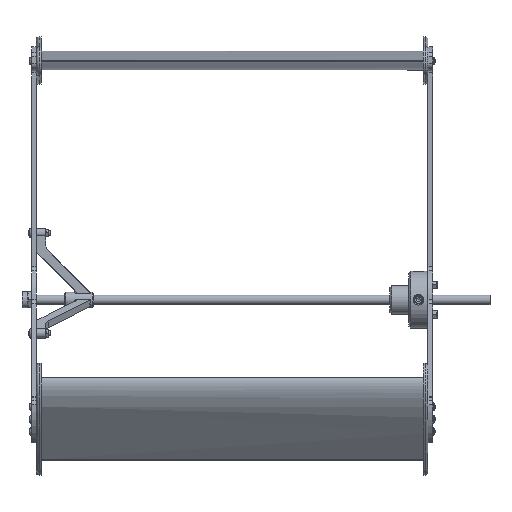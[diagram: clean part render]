
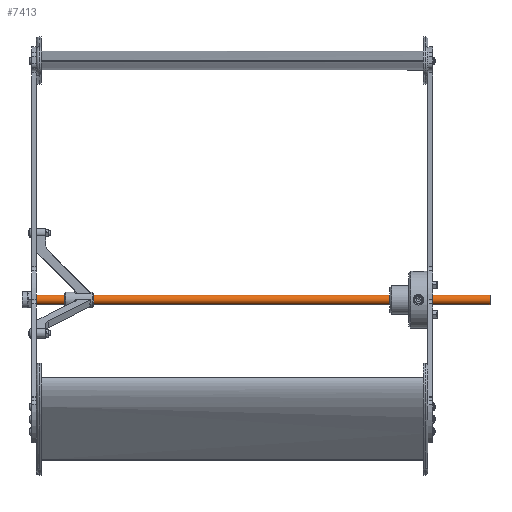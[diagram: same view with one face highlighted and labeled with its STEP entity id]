
A CAD part, left-side view. The second image highlights one B-rep face of the part: STEP entity #7413.
In plain terms, the highlighted cylindrical face has radius 5 mm (diameter 10 mm), a full revolution.
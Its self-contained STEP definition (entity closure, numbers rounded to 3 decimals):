
#875=CYLINDRICAL_SURFACE('',#8336,5.);
#1117=FACE_OUTER_BOUND('',#1644,.T.);
#1644=EDGE_LOOP('',(#5960,#5961,#5962,#5963,#5964));
#2147=LINE('',#55470,#2540);
#2540=VECTOR('',#9944,5.);
#2958=CIRCLE('',#8331,5.);
#2960=CIRCLE('',#8334,5.);
#2961=CIRCLE('',#8335,5.);
#3508=VERTEX_POINT('',#55459);
#3510=VERTEX_POINT('',#55464);
#3511=VERTEX_POINT('',#55466);
#4378=EDGE_CURVE('',#3508,#3508,#2958,.T.);
#4381=EDGE_CURVE('',#3510,#3511,#2960,.T.);
#4382=EDGE_CURVE('',#3511,#3510,#2961,.T.);
#4383=EDGE_CURVE('',#3511,#3508,#2147,.T.);
#5960=ORIENTED_EDGE('',*,*,#4381,.F.);
#5961=ORIENTED_EDGE('',*,*,#4382,.F.);
#5962=ORIENTED_EDGE('',*,*,#4383,.T.);
#5963=ORIENTED_EDGE('',*,*,#4378,.F.);
#5964=ORIENTED_EDGE('',*,*,#4383,.F.);
#7413=ADVANCED_FACE('',(#1117),#875,.T.);
#8331=AXIS2_PLACEMENT_3D('',#55460,#9931,#9932);
#8334=AXIS2_PLACEMENT_3D('',#55467,#9938,#9939);
#8335=AXIS2_PLACEMENT_3D('',#55468,#9940,#9941);
#8336=AXIS2_PLACEMENT_3D('',#55469,#9942,#9943);
#9931=DIRECTION('center_axis',(0.,-1.,0.));
#9932=DIRECTION('ref_axis',(1.,0.,0.));
#9938=DIRECTION('center_axis',(0.,1.,0.));
#9939=DIRECTION('ref_axis',(1.,0.,0.));
#9940=DIRECTION('center_axis',(0.,1.,0.));
#9941=DIRECTION('ref_axis',(1.,0.,0.));
#9942=DIRECTION('center_axis',(0.,1.,0.));
#9943=DIRECTION('ref_axis',(-1.,0.,0.));
#9944=DIRECTION('',(0.,-1.,0.));
#55459=CARTESIAN_POINT('',(5.,-270.,0.));
#55460=CARTESIAN_POINT('Origin',(0.,-270.,0.));
#55464=CARTESIAN_POINT('',(-5.,219.6,0.));
#55466=CARTESIAN_POINT('',(5.,219.6,0.));
#55467=CARTESIAN_POINT('Origin',(0.,219.6,0.));
#55468=CARTESIAN_POINT('Origin',(0.,219.6,0.));
#55469=CARTESIAN_POINT('Origin',(0.,0.,0.));
#55470=CARTESIAN_POINT('',(5.,0.,0.));
